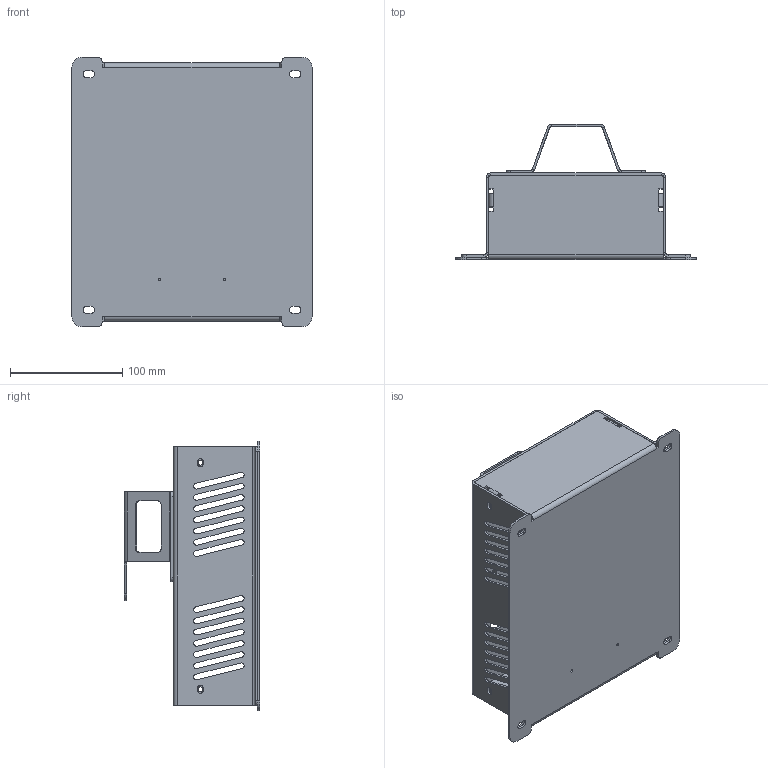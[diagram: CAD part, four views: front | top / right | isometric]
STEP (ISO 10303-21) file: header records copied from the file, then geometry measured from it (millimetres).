
FILE_DESCRIPTION(/* description */ (''),/* implementation_level */ '2;1');
FILE_NAME(/* name */ '',/* time_stamp */ '2024-10-05T13:16:54+03:00',/* author */ (''),/* organization */ (''),/* preprocessor_version */ 'ST-DEVELOPER v20',/* originating_system */ 'Autodesk Translation Framework v13.14.0.145',/* authorisation */ '');
FILE_SCHEMA (('AUTOMOTIVE_DESIGN { 1 0 10303 214 3 1 1 }'));
Length unit declared in the file: millimetre
Products named in the file (6): 5210_0001_СБ_Педали_управления_
VPC_ACE_Flight_Rudder_Pedals; 5215-0001 СБ Механизм педалей 
управления VPC ACE; Сборка 5212-0001 Коромысло_
Для общей сборки; Component144; Component153; Component154
Assembly tree (5 placements, depth 3):
  5210_0001_СБ_Педали_управления_
VPC_ACE_Flight_Rudder_Pedals
    5215-0001 СБ Механизм педалей 
управления VPC ACE
      Сборка 5212-0001 Коромысло_
Для общей сборки
    Component144
    Component153
    Component154
Bounding box: 214 x 120.5 x 240 mm (x, y, z)
Volume: 293117.1 mm3; surface area: 309156.1 mm2
Topology: 3 solids, 3 shells, 473 faces, 1309 edges, 842 vertices
Faces by surface type: plane 259, cylinder 214
Full cylindrical faces by diameter (mm): 2.5 x6, 3.2 x2, 4.1 x2, 4.3 x4, 6.1 x5, 8.1 x2, 16.2 x1, 22 x1
Entity records: 15564 total; most frequent: DIRECTION 2705, CARTESIAN_POINT 2635, ORIENTED_EDGE 2618, EDGE_CURVE 1309, AXIS2_PLACEMENT_3D 912, LINE 881, VECTOR 881, VERTEX_POINT 842
